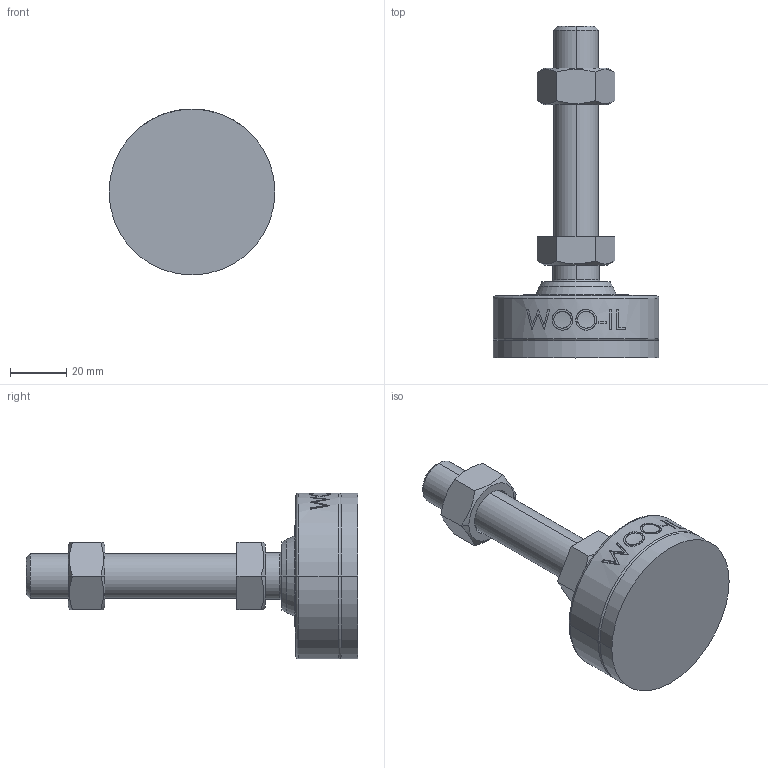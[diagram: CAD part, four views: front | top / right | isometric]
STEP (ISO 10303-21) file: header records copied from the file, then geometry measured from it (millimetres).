
FILE_DESCRIPTION (( 'STEP AP214' ), '1' );
FILE_NAME ('MFNR59-M16-75.step', '2021-02-22T09:07:28', ( '' ), ( '' ), 'SwSTEP 2.0', 'SolidWorks 2019', '' );
FILE_SCHEMA (( 'AUTOMOTIVE_DESIGN' ));
Length unit declared in the file: millimetre
Products named in the file (2): MFNR59-M16-75
Bounding box: 59 x 118 x 59 mm (x, y, z)
Volume: 88385.6 mm3; surface area: 17607 mm2
Topology: 2 solids, 2 shells, 105 faces, 245 edges, 156 vertices
Faces by surface type: plane 47, cone 18, cylinder 18, bspline 16, torus 4, sphere 2
Entity records: 4515 total; most frequent: CARTESIAN_POINT 2178, ORIENTED_EDGE 490, DIRECTION 437, EDGE_CURVE 245, AXIS2_PLACEMENT_3D 167, VERTEX_POINT 156, EDGE_LOOP 119, ADVANCED_FACE 105
